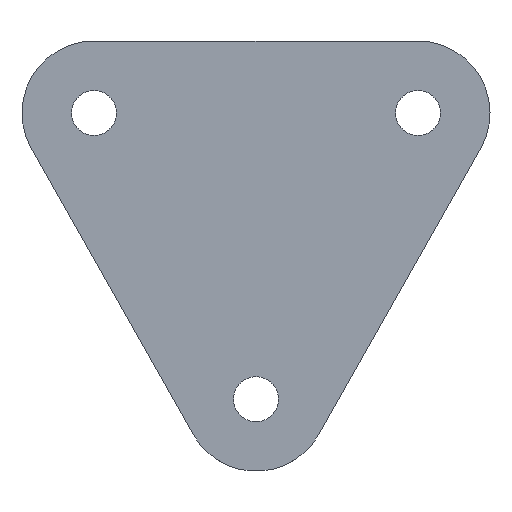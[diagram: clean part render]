
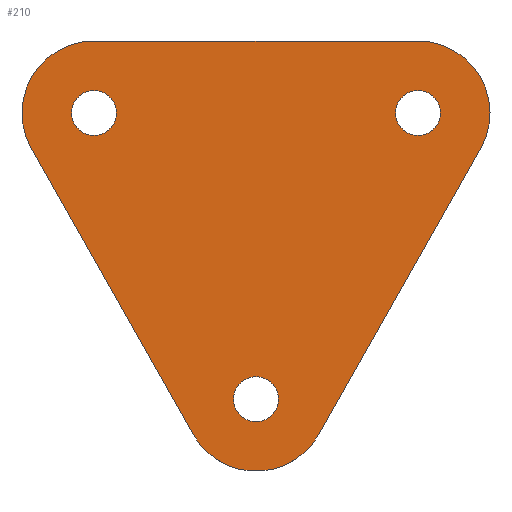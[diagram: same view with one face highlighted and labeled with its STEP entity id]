
A CAD part, top view. The second image highlights one B-rep face of the part: STEP entity #210.
In plain terms, the highlighted planar face has unit normal (0, 0, 1).
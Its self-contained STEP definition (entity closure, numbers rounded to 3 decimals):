
#15=FACE_BOUND('',#47,.T.);
#16=FACE_BOUND('',#48,.T.);
#17=FACE_BOUND('',#49,.T.);
#24=PLANE('',#247);
#35=FACE_OUTER_BOUND('',#46,.T.);
#46=EDGE_LOOP('',(#177,#178,#179,#180,#181,#182));
#47=EDGE_LOOP('',(#183));
#48=EDGE_LOOP('',(#184));
#49=EDGE_LOOP('',(#185));
#59=LINE('',#338,#74);
#63=LINE('',#350,#78);
#67=LINE('',#362,#82);
#74=VECTOR('',#276,10.);
#78=VECTOR('',#288,10.);
#82=VECTOR('',#300,10.);
#85=CIRCLE('',#228,25.);
#87=CIRCLE('',#231,25.);
#89=CIRCLE('',#234,25.);
#91=CIRCLE('',#238,80.);
#93=CIRCLE('',#242,80.);
#95=CIRCLE('',#246,80.);
#97=VERTEX_POINT('',#316);
#99=VERTEX_POINT('',#322);
#101=VERTEX_POINT('',#328);
#104=VERTEX_POINT('',#335);
#105=VERTEX_POINT('',#337);
#107=VERTEX_POINT('',#343);
#109=VERTEX_POINT('',#349);
#111=VERTEX_POINT('',#355);
#113=VERTEX_POINT('',#361);
#116=EDGE_CURVE('',#97,#97,#85,.T.);
#119=EDGE_CURVE('',#99,#99,#87,.T.);
#122=EDGE_CURVE('',#101,#101,#89,.T.);
#125=EDGE_CURVE('',#105,#104,#59,.T.);
#128=EDGE_CURVE('',#107,#105,#91,.T.);
#131=EDGE_CURVE('',#109,#107,#63,.T.);
#134=EDGE_CURVE('',#111,#109,#93,.T.);
#137=EDGE_CURVE('',#113,#111,#67,.T.);
#140=EDGE_CURVE('',#104,#113,#95,.T.);
#177=ORIENTED_EDGE('',*,*,#140,.T.);
#178=ORIENTED_EDGE('',*,*,#137,.T.);
#179=ORIENTED_EDGE('',*,*,#134,.T.);
#180=ORIENTED_EDGE('',*,*,#131,.T.);
#181=ORIENTED_EDGE('',*,*,#128,.T.);
#182=ORIENTED_EDGE('',*,*,#125,.T.);
#183=ORIENTED_EDGE('',*,*,#116,.T.);
#184=ORIENTED_EDGE('',*,*,#119,.T.);
#185=ORIENTED_EDGE('',*,*,#122,.T.);
#210=ADVANCED_FACE('',(#35,#15,#16,#17),#24,.T.);
#228=AXIS2_PLACEMENT_3D('',#318,#256,#257);
#231=AXIS2_PLACEMENT_3D('',#324,#263,#264);
#234=AXIS2_PLACEMENT_3D('',#330,#270,#271);
#238=AXIS2_PLACEMENT_3D('',#344,#282,#283);
#242=AXIS2_PLACEMENT_3D('',#356,#294,#295);
#246=AXIS2_PLACEMENT_3D('',#366,#306,#307);
#247=AXIS2_PLACEMENT_3D('',#367,#308,#309);
#256=DIRECTION('center_axis',(0.,0.,-1.));
#257=DIRECTION('ref_axis',(1.,0.,0.));
#263=DIRECTION('center_axis',(0.,0.,-1.));
#264=DIRECTION('ref_axis',(1.,0.,0.));
#270=DIRECTION('center_axis',(0.,0.,-1.));
#271=DIRECTION('ref_axis',(1.,0.,0.));
#276=DIRECTION('',(-1.,0.,0.));
#282=DIRECTION('center_axis',(0.,0.,1.));
#283=DIRECTION('ref_axis',(0.87,-0.493,0.));
#288=DIRECTION('',(0.493,0.87,0.));
#294=DIRECTION('center_axis',(0.,0.,1.));
#295=DIRECTION('ref_axis',(-0.87,-0.493,0.));
#300=DIRECTION('',(0.493,-0.87,0.));
#306=DIRECTION('center_axis',(0.,0.,1.));
#307=DIRECTION('ref_axis',(0.,1.,0.));
#308=DIRECTION('center_axis',(0.,0.,1.));
#309=DIRECTION('ref_axis',(1.,0.,0.));
#316=CARTESIAN_POINT('',(-205.,0.,20.));
#318=CARTESIAN_POINT('Origin',(-180.,0.,20.));
#322=CARTESIAN_POINT('',(-25.,-318.,20.));
#324=CARTESIAN_POINT('Origin',(0.,-318.,20.));
#328=CARTESIAN_POINT('',(155.,0.,20.));
#330=CARTESIAN_POINT('Origin',(180.,0.,20.));
#335=CARTESIAN_POINT('',(-180.,80.,20.));
#337=CARTESIAN_POINT('',(180.,80.,20.));
#338=CARTESIAN_POINT('',(180.,80.,20.));
#343=CARTESIAN_POINT('',(249.621,-39.408,20.));
#344=CARTESIAN_POINT('Origin',(180.,0.,20.));
#349=CARTESIAN_POINT('',(69.621,-357.408,20.));
#350=CARTESIAN_POINT('',(69.621,-357.408,20.));
#355=CARTESIAN_POINT('',(-69.621,-357.408,20.));
#356=CARTESIAN_POINT('Origin',(0.,-318.,20.));
#361=CARTESIAN_POINT('',(-249.621,-39.408,20.));
#362=CARTESIAN_POINT('',(-249.621,-39.408,20.));
#366=CARTESIAN_POINT('Origin',(-180.,0.,20.));
#367=CARTESIAN_POINT('Origin',(0.,-159.,20.));
